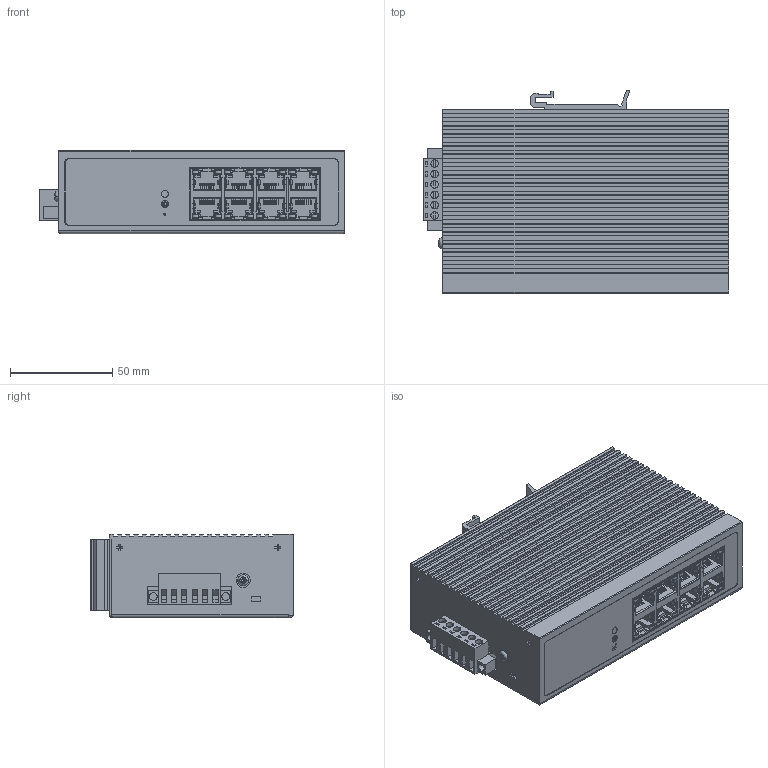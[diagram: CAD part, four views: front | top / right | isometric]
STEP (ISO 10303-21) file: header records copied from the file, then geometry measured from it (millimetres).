
FILE_DESCRIPTION((''),'2;1');
FILE_NAME('TXI036-TXI046','2025-04-11T08:17:39',('NINGMEI'),(''),'CREO PARAMETRIC BY PTC INC, 2023154','CREO PARAMETRIC BY PTC INC, 2023154','');
FILE_SCHEMA(('CONFIG_CONTROL_DESIGN'));
Products named in the file (1): TXI036-TXI046
Bounding box: 149.5 x 99.48 x 40.8 mm (x, y, z)
Volume: 131436.4 mm3; surface area: 144458.2 mm2
Topology: 1 solids, 3 shells, 4619 faces, 12872 edges, 8351 vertices
Faces by surface type: plane 3451, cylinder 887, bspline 168, cone 45, sphere 44, torus 24
Entity records: 155118 total; most frequent: CARTESIAN_POINT 36370, ORIENTED_EDGE 25732, DIRECTION 22653, EDGE_CURVE 12866, VECTOR 10403, LINE 10403, VERTEX_POINT 8351, AXIS2_PLACEMENT_3D 6125
